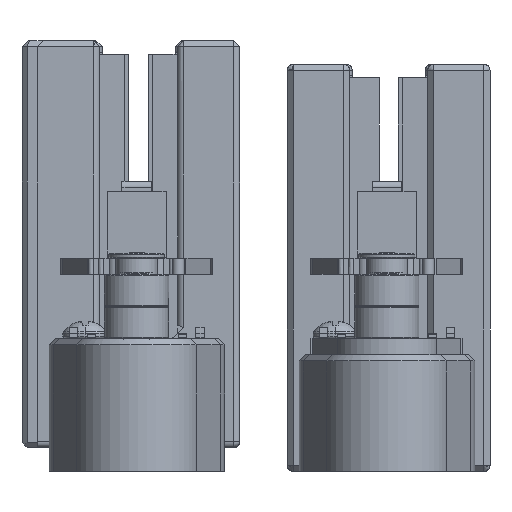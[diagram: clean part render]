
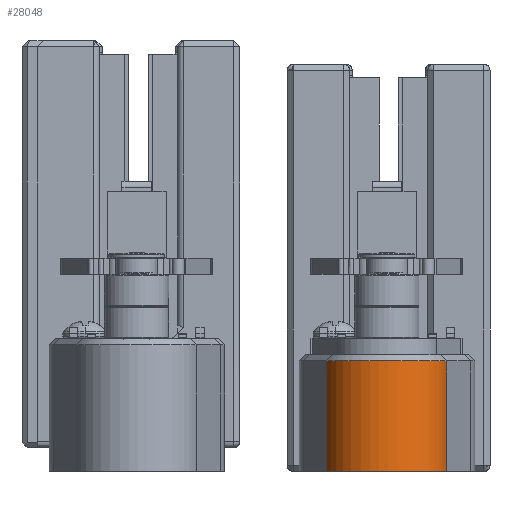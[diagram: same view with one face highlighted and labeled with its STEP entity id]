
A CAD part, left-side view. The second image highlights one B-rep face of the part: STEP entity #28048.
In plain terms, the highlighted cylindrical face has radius 6.2 mm (diameter 12.4 mm), a partial arc.
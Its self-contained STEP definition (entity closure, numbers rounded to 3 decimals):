
#28048 = ADVANCED_FACE('',(#28049),#28063,.T.);
#28049 = FACE_BOUND('',#28050,.T.);
#28050 = EDGE_LOOP('',(#28051,#28096,#28110,#28148));
#28051 = ORIENTED_EDGE('',*,*,#28052,.F.);
#28052 = EDGE_CURVE('',#28053,#28055,#28057,.T.);
#28053 = VERTEX_POINT('',#28054);
#28054 = CARTESIAN_POINT('',(2.962,15.573,
    4.163));
#28055 = VERTEX_POINT('',#28056);
#28056 = CARTESIAN_POINT('',(-8.844,15.573,
    4.163));
#28057 = SURFACE_CURVE('',#28058,(#28062),.PCURVE_S1.);
#28058 = ( BOUNDED_CURVE() B_SPLINE_CURVE(2,(#28059,#28060,#28061),
.UNSPECIFIED.,.F.,.F.) B_SPLINE_CURVE_WITH_KNOTS((3,3),(3.763,
6.283),.PIECEWISE_BEZIER_KNOTS.) CURVE() 
GEOMETRIC_REPRESENTATION_ITEM() RATIONAL_B_SPLINE_CURVE((1.,
0.306,1.)) REPRESENTATION_ITEM('') );
#28059 = CARTESIAN_POINT('',(2.962,15.573,
    4.163));
#28060 = CARTESIAN_POINT('',(-2.941,33.949,
    4.163));
#28061 = CARTESIAN_POINT('',(-8.844,15.573,
    4.163));
#28062 = PCURVE('',#28063,#28068);
#28063 = CYLINDRICAL_SURFACE('',#28064,6.2);
#28064 = AXIS2_PLACEMENT_3D('',#28065,#28066,#28067);
#28065 = CARTESIAN_POINT('',(-2.941,13.677,
    6.363));
#28066 = DIRECTION('',(0.,0.,-1.));
#28067 = DIRECTION('',(-0.952,0.306,
    0.));
#28068 = DEFINITIONAL_REPRESENTATION('',(#28069),#28095);
#28069 = B_SPLINE_CURVE_WITH_KNOTS('',3,(#28070,#28071,#28072,#28073,
    #28074,#28075,#28076,#28077,#28078,#28079,#28080,#28081,#28082,
    #28083,#28084,#28085,#28086,#28087,#28088,#28089,#28090,#28091,
    #28092,#28093,#28094),.UNSPECIFIED.,.F.,.F.,(4,1,1,1,1,1,1,1,1,1,1,1
    ,1,1,1,1,1,1,1,1,1,1,4),(3.763,3.878,
    3.992,4.107,4.221,4.336,
    4.45,4.565,4.679,4.794,
    4.909,5.023,5.138,5.252,
    5.367,5.481,5.596,5.71,
    5.825,5.939,6.054,6.169,
    6.283),.QUASI_UNIFORM_KNOTS.);
#28070 = CARTESIAN_POINT('',(2.52,2.2));
#28071 = CARTESIAN_POINT('',(2.491,2.2));
#28072 = CARTESIAN_POINT('',(2.432,2.2));
#28073 = CARTESIAN_POINT('',(2.337,2.2));
#28074 = CARTESIAN_POINT('',(2.236,2.2));
#28075 = CARTESIAN_POINT('',(2.13,2.2));
#28076 = CARTESIAN_POINT('',(2.018,2.2));
#28077 = CARTESIAN_POINT('',(1.901,2.2));
#28078 = CARTESIAN_POINT('',(1.779,2.2));
#28079 = CARTESIAN_POINT('',(1.653,2.2));
#28080 = CARTESIAN_POINT('',(1.524,2.2));
#28081 = CARTESIAN_POINT('',(1.393,2.2));
#28082 = CARTESIAN_POINT('',(1.26,2.2));
#28083 = CARTESIAN_POINT('',(1.127,2.2));
#28084 = CARTESIAN_POINT('',(0.996,2.2));
#28085 = CARTESIAN_POINT('',(0.867,2.2));
#28086 = CARTESIAN_POINT('',(0.741,2.2));
#28087 = CARTESIAN_POINT('',(0.619,2.2));
#28088 = CARTESIAN_POINT('',(0.502,2.2));
#28089 = CARTESIAN_POINT('',(0.39,2.2));
#28090 = CARTESIAN_POINT('',(0.284,2.2));
#28091 = CARTESIAN_POINT('',(0.183,2.2));
#28092 = CARTESIAN_POINT('',(0.088,2.2));
#28093 = CARTESIAN_POINT('',(0.029,2.2));
#28094 = CARTESIAN_POINT('',(0.,2.2));
#28095 = ( GEOMETRIC_REPRESENTATION_CONTEXT(2) 
PARAMETRIC_REPRESENTATION_CONTEXT() REPRESENTATION_CONTEXT('2D SPACE',''
  ) );
#28096 = ORIENTED_EDGE('',*,*,#28097,.T.);
#28097 = EDGE_CURVE('',#28053,#28098,#28100,.T.);
#28098 = VERTEX_POINT('',#28099);
#28099 = CARTESIAN_POINT('',(2.962,15.573,
    -6.737));
#28100 = SURFACE_CURVE('',#28101,(#28104),.PCURVE_S1.);
#28101 = B_SPLINE_CURVE_WITH_KNOTS('',1,(#28102,#28103),.UNSPECIFIED.,
  .F.,.F.,(2,2),(-13.1,-2.2),.PIECEWISE_BEZIER_KNOTS.);
#28102 = CARTESIAN_POINT('',(2.962,15.573,
    4.163));
#28103 = CARTESIAN_POINT('',(2.962,15.573,
    -6.737));
#28104 = PCURVE('',#28063,#28105);
#28105 = DEFINITIONAL_REPRESENTATION('',(#28106),#28109);
#28106 = B_SPLINE_CURVE_WITH_KNOTS('',1,(#28107,#28108),.UNSPECIFIED.,
  .F.,.F.,(2,2),(-13.1,-2.2),.PIECEWISE_BEZIER_KNOTS.);
#28107 = CARTESIAN_POINT('',(2.52,2.2));
#28108 = CARTESIAN_POINT('',(2.52,13.1));
#28109 = ( GEOMETRIC_REPRESENTATION_CONTEXT(2) 
PARAMETRIC_REPRESENTATION_CONTEXT() REPRESENTATION_CONTEXT('2D SPACE',''
  ) );
#28110 = ORIENTED_EDGE('',*,*,#28111,.T.);
#28111 = EDGE_CURVE('',#28098,#28112,#28114,.T.);
#28112 = VERTEX_POINT('',#28113);
#28113 = CARTESIAN_POINT('',(-8.844,15.573,
    -6.737));
#28114 = SURFACE_CURVE('',#28115,(#28119),.PCURVE_S1.);
#28115 = ( BOUNDED_CURVE() B_SPLINE_CURVE(2,(#28116,#28117,#28118),
.UNSPECIFIED.,.F.,.F.) B_SPLINE_CURVE_WITH_KNOTS((3,3),(
0.,2.52),.PIECEWISE_BEZIER_KNOTS.) CURVE() 
GEOMETRIC_REPRESENTATION_ITEM() RATIONAL_B_SPLINE_CURVE((1.,
0.306,1.)) REPRESENTATION_ITEM('') );
#28116 = CARTESIAN_POINT('',(2.962,15.573,
    -6.737));
#28117 = CARTESIAN_POINT('',(-2.941,33.949,
    -6.737));
#28118 = CARTESIAN_POINT('',(-8.844,15.573,
    -6.737));
#28119 = PCURVE('',#28063,#28120);
#28120 = DEFINITIONAL_REPRESENTATION('',(#28121),#28147);
#28121 = B_SPLINE_CURVE_WITH_KNOTS('',3,(#28122,#28123,#28124,#28125,
    #28126,#28127,#28128,#28129,#28130,#28131,#28132,#28133,#28134,
    #28135,#28136,#28137,#28138,#28139,#28140,#28141,#28142,#28143,
    #28144,#28145,#28146),.UNSPECIFIED.,.F.,.F.,(4,1,1,1,1,1,1,1,1,1,1,1
    ,1,1,1,1,1,1,1,1,1,1,4),(0.,0.115,
    0.229,0.344,0.458,0.573,
    0.687,0.802,0.916,1.031,
    1.146,1.26,1.375,1.489,
    1.604,1.718,1.833,1.947,
    2.062,2.176,2.291,2.406,
    2.52),.QUASI_UNIFORM_KNOTS.);
#28122 = CARTESIAN_POINT('',(2.52,13.1));
#28123 = CARTESIAN_POINT('',(2.491,13.1));
#28124 = CARTESIAN_POINT('',(2.432,13.1));
#28125 = CARTESIAN_POINT('',(2.337,13.1));
#28126 = CARTESIAN_POINT('',(2.236,13.1));
#28127 = CARTESIAN_POINT('',(2.13,13.1));
#28128 = CARTESIAN_POINT('',(2.018,13.1));
#28129 = CARTESIAN_POINT('',(1.901,13.1));
#28130 = CARTESIAN_POINT('',(1.779,13.1));
#28131 = CARTESIAN_POINT('',(1.653,13.1));
#28132 = CARTESIAN_POINT('',(1.524,13.1));
#28133 = CARTESIAN_POINT('',(1.393,13.1));
#28134 = CARTESIAN_POINT('',(1.26,13.1));
#28135 = CARTESIAN_POINT('',(1.127,13.1));
#28136 = CARTESIAN_POINT('',(0.996,13.1));
#28137 = CARTESIAN_POINT('',(0.867,13.1));
#28138 = CARTESIAN_POINT('',(0.741,13.1));
#28139 = CARTESIAN_POINT('',(0.619,13.1));
#28140 = CARTESIAN_POINT('',(0.502,13.1));
#28141 = CARTESIAN_POINT('',(0.39,13.1));
#28142 = CARTESIAN_POINT('',(0.284,13.1));
#28143 = CARTESIAN_POINT('',(0.183,13.1));
#28144 = CARTESIAN_POINT('',(0.088,13.1));
#28145 = CARTESIAN_POINT('',(0.029,13.1));
#28146 = CARTESIAN_POINT('',(0.,13.1));
#28147 = ( GEOMETRIC_REPRESENTATION_CONTEXT(2) 
PARAMETRIC_REPRESENTATION_CONTEXT() REPRESENTATION_CONTEXT('2D SPACE',''
  ) );
#28148 = ORIENTED_EDGE('',*,*,#28149,.T.);
#28149 = EDGE_CURVE('',#28112,#28055,#28150,.T.);
#28150 = SURFACE_CURVE('',#28151,(#28154),.PCURVE_S1.);
#28151 = B_SPLINE_CURVE_WITH_KNOTS('',1,(#28152,#28153),.UNSPECIFIED.,
  .F.,.F.,(2,2),(-0.643,10.257),
  .PIECEWISE_BEZIER_KNOTS.);
#28152 = CARTESIAN_POINT('',(-8.844,15.573,
    -6.737));
#28153 = CARTESIAN_POINT('',(-8.844,15.573,
    4.163));
#28154 = PCURVE('',#28063,#28155);
#28155 = DEFINITIONAL_REPRESENTATION('',(#28156),#28182);
#28156 = B_SPLINE_CURVE_WITH_KNOTS('',3,(#28157,#28158,#28159,#28160,
    #28161,#28162,#28163,#28164,#28165,#28166,#28167,#28168,#28169,
    #28170,#28171,#28172,#28173,#28174,#28175,#28176,#28177,#28178,
    #28179,#28180,#28181),.UNSPECIFIED.,.F.,.F.,(4,1,1,1,1,1,1,1,1,1,1,1
    ,1,1,1,1,1,1,1,1,1,1,4),(-0.643,-0.148,
    0.348,0.843,1.338,1.834,
    2.329,2.825,3.32,3.816,
    4.311,4.807,5.302,5.798,
    6.293,6.788,7.284,7.779,
    8.275,8.77,9.266,9.761,
    10.257),.UNSPECIFIED.);
#28157 = CARTESIAN_POINT('',(0.,13.1));
#28158 = CARTESIAN_POINT('',(0.,12.935));
#28159 = CARTESIAN_POINT('',(0.,12.605));
#28160 = CARTESIAN_POINT('',(0.,12.109));
#28161 = CARTESIAN_POINT('',(0.,11.614));
#28162 = CARTESIAN_POINT('',(0.,11.118));
#28163 = CARTESIAN_POINT('',(0.,10.623));
#28164 = CARTESIAN_POINT('',(0.,10.127));
#28165 = CARTESIAN_POINT('',(0.,9.632));
#28166 = CARTESIAN_POINT('',(0.,9.136));
#28167 = CARTESIAN_POINT('',(0.,8.641));
#28168 = CARTESIAN_POINT('',(0.,8.145));
#28169 = CARTESIAN_POINT('',(0.,7.65));
#28170 = CARTESIAN_POINT('',(0.,7.155));
#28171 = CARTESIAN_POINT('',(0.,6.659));
#28172 = CARTESIAN_POINT('',(0.,6.164));
#28173 = CARTESIAN_POINT('',(0.,5.668));
#28174 = CARTESIAN_POINT('',(0.,5.173));
#28175 = CARTESIAN_POINT('',(0.,4.677));
#28176 = CARTESIAN_POINT('',(0.,4.182));
#28177 = CARTESIAN_POINT('',(0.,3.686));
#28178 = CARTESIAN_POINT('',(0.,3.191));
#28179 = CARTESIAN_POINT('',(0.,2.695));
#28180 = CARTESIAN_POINT('',(0.,2.365));
#28181 = CARTESIAN_POINT('',(0.,2.2));
#28182 = ( GEOMETRIC_REPRESENTATION_CONTEXT(2) 
PARAMETRIC_REPRESENTATION_CONTEXT() REPRESENTATION_CONTEXT('2D SPACE',''
  ) );
